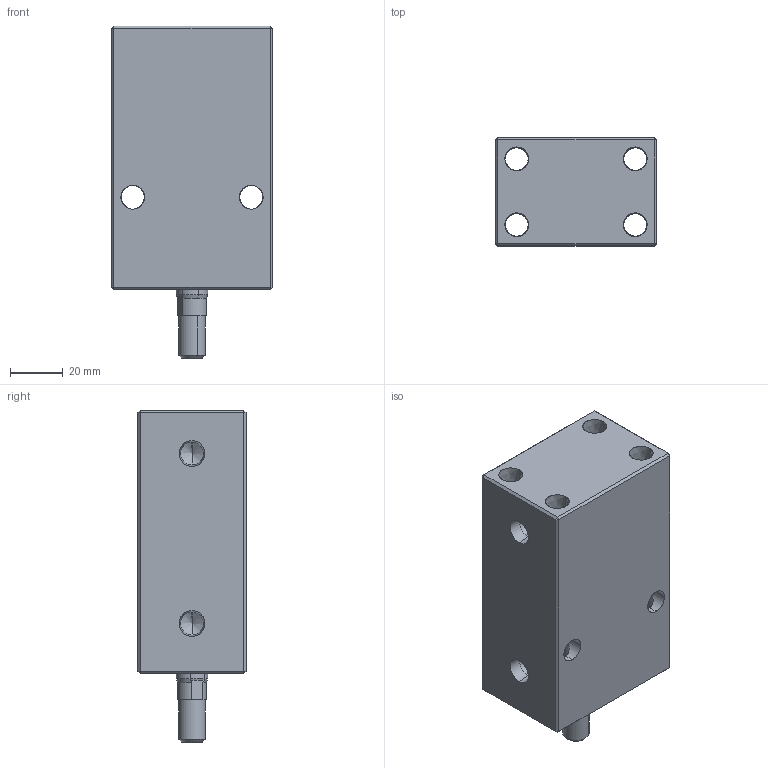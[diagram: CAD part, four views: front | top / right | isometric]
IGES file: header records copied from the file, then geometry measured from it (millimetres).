
Start section: SolidWorks IGES file using analytic representation for surfaces
Global section: file name: E:\ALL-SSVT-BLOCK\IGS MODEL-20BORE\BC04-20-50-M.IGS; native system: SolidWorks 2019; preprocessor: SolidWorks 2019; author: SSVT; date: 210824.084431; units: millimetre
Bounding box: 61 x 41 x 126 mm (x, y, z)
Surface area: 45055.3 mm2 (no closed solid volume)
Topology: 0 solids, 0 shells, 96 faces, 1703 edges, 1699 vertices
Faces by surface type: revolution 61, bspline 35
